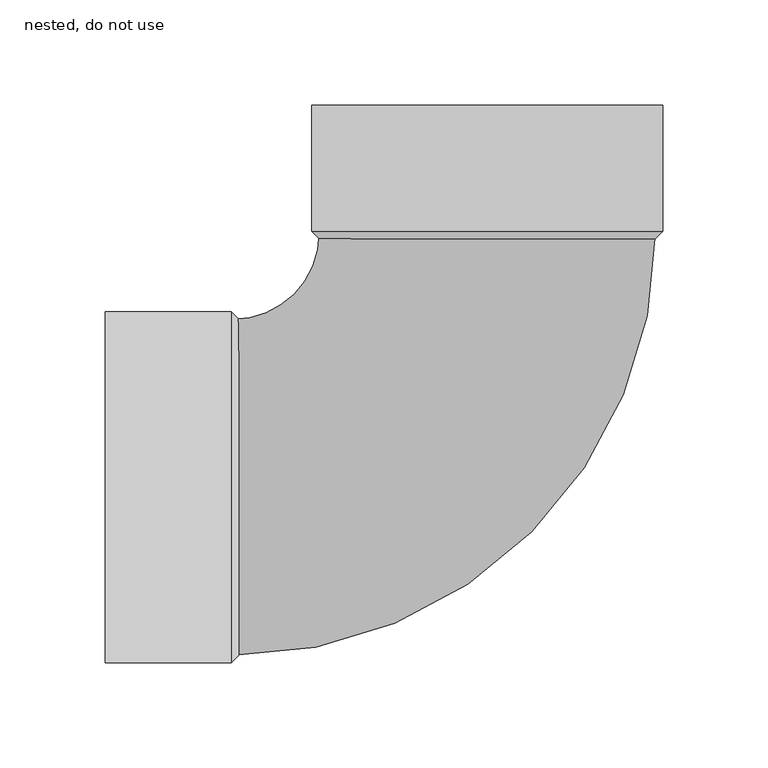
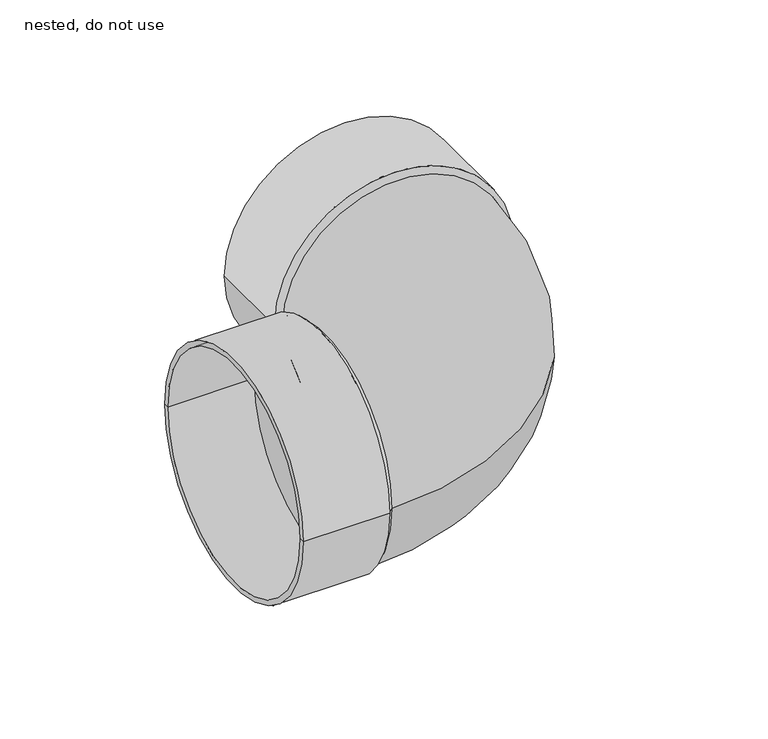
"""IFC4 building model written with IfcOpenShell, lengths in millimetres: pipe fitting geometry, NLRS_52_PIF_UN_Vacurain Flex bocht 2LV_SH_Dyka : nested, do not use."""

from ifc_helpers import new_model, si_unit, point, frame, origin, place, context, project, spatial, polyline, circle_curve, ellipse_curve, trimmed, source, transform, mapped, element, save
from ifc_brep_helpers import plane_surface, cylinder_surface, revolved_surface, advanced_brep


def nested_do_not_use_ecfcf849(model_context):
    return source(origin(), model_context, "Body", "AdvancedBrep", [
        advanced_brep(
        [(-182.0, 83.6, 0.0), (-182.0, -83.6, 0.0), (-182.0, -80.0, 0.0), (-182.0, 80.0, 0.0), (-122.0, 83.6, 0.0), (-122.0, -83.6, 0.0), (-118.4, 80.0, 0.0), (-118.4, -80.0, 0.0)],
        [
            (0, 1, circle_curve(frame((-182.0, 0.0, 0.0), z_axis=(-1.0, 0.0, 0.0), x_axis=(0.0, -1.0000000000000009, 0.0)), 83.6)),
            (1, 2),
            (2, 3, circle_curve(frame((-182.0, 0.0, 0.0), z_axis=(1.0, 0.0, 0.0), x_axis=(0.0, -1.0000000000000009, 0.0)), 80.0)),
            (3, 0),
            (1, 0, circle_curve(frame((-182.0, 0.0, 0.0), z_axis=(-1.0, 0.0, 0.0), x_axis=(0.0, -1.0000000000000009, 0.0)), 83.6)),
            (3, 2, circle_curve(frame((-182.0, 0.0, 0.0), z_axis=(1.0, 0.0, 0.0), x_axis=(0.0, -1.0000000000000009, 0.0)), 80.0)),
            (4, 5, circle_curve(frame((-122.0, 0.0, 0.0), z_axis=(-1.0, 0.0, 0.0), x_axis=(0.0, -1.0000000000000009, 0.0)), 83.6)),
            (5, 1),
            (0, 4),
            (5, 4, circle_curve(frame((-122.0, 0.0, 0.0), z_axis=(-1.0, 0.0, 0.0), x_axis=(0.0, -1.0000000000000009, 0.0)), 83.6)),
            (6, 7, circle_curve(frame((-118.4, 0.0, 0.0), z_axis=(-1.0, 0.0, 0.0), x_axis=(0.0, -1.0000000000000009, 0.0)), 80.0)),
            (7, 5),
            (4, 6),
            (7, 6, circle_curve(frame((-118.4, 0.0, 0.0), z_axis=(-1.0, 0.0, 0.0), x_axis=(0.0, -1.0000000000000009, 0.0)), 80.0)),
            (2, 7),
            (6, 3),
        ],
        [
            plane_surface(frame((-182.0, 0.0, 0.0), z_axis=(-1.0, 0.0, 0.0), x_axis=(0.0, -1.0, 0.0))),
            cylinder_surface(frame((-122.0, 0.0, 0.0), z_axis=(1.0000000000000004, 0.0, 0.0), x_axis=(0.0, -1.0000000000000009, 0.0)), 83.6),
            revolved_surface(polyline([(-122.0, -83.6, 0.0), (-118.4, -80.0, 0.0)]), (-122.0, 0.0, 0.0), (1.0000000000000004, 0.0, 0.0)),
            revolved_surface(polyline([(-118.4, -80.00000000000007, 0.0), (-182.00000000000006, -80.00000000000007, 0.0)]), (-122.0, 0.0, 0.0), (1.0000000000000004, 0.0, 0.0)),
        ],
        [
            (0, [[1, 2, 3, 4]]),
            (0, [[5, -4, 6, -2]]),
            (1, [[7, 8, -1, 9]]),
            (1, [[10, -9, -5, -8]]),
            (2, [[11, 12, -7, 13]]),
            (2, [[14, -13, -10, -12]]),
            (3, [[-3, 15, -11, 16]]),
            (3, [[-6, -16, -14, -15]]),
        ],
    ),
        advanced_brep(
        [(83.6, 182.0, 0.0), (-83.6, 182.0, 0.0), (-80.0, 182.0, 0.0), (80.0, 182.0, 0.0), (83.6, 122.0, 0.0), (-83.6, 122.0, 0.0), (80.0, 118.4, 0.0), (-80.0, 118.4, 0.0)],
        [
            (0, 1, circle_curve(frame((0.0, 182.0, 0.0), z_axis=(0.0, 1.0, 0.0), x_axis=(-1.0000000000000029, 0.0, 0.0)), 83.6)),
            (1, 2),
            (2, 3, circle_curve(frame((0.0, 182.0, 0.0), z_axis=(0.0, -1.0, 0.0), x_axis=(-1.0000000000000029, 0.0, 0.0)), 80.0)),
            (3, 0),
            (1, 0, circle_curve(frame((0.0, 182.0, 0.0), z_axis=(0.0, 1.0, 0.0), x_axis=(-1.0000000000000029, 0.0, 0.0)), 83.6)),
            (3, 2, circle_curve(frame((0.0, 182.0, 0.0), z_axis=(0.0, -1.0, 0.0), x_axis=(-1.0000000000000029, 0.0, 0.0)), 80.0)),
            (4, 5, circle_curve(frame((0.0, 122.0, 0.0), z_axis=(0.0, 1.0, 0.0), x_axis=(-1.0000000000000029, 0.0, 0.0)), 83.6)),
            (5, 1),
            (0, 4),
            (5, 4, circle_curve(frame((0.0, 122.0, 0.0), z_axis=(0.0, 1.0, 0.0), x_axis=(-1.0000000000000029, 0.0, 0.0)), 83.6)),
            (6, 7, circle_curve(frame((0.0, 118.4, 0.0), z_axis=(0.0, 1.0, 0.0), x_axis=(-1.0000000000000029, 0.0, 0.0)), 80.0)),
            (7, 5),
            (4, 6),
            (7, 6, circle_curve(frame((0.0, 118.4, 0.0), z_axis=(0.0, 1.0, 0.0), x_axis=(-1.0000000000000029, 0.0, 0.0)), 80.0)),
            (2, 7),
            (6, 3),
        ],
        [
            plane_surface(frame((0.0, 182.0, 0.0), z_axis=(0.0, 1.0, 0.0), x_axis=(-1.0, 0.0, 0.0))),
            cylinder_surface(frame((0.0, 122.0, 0.0), z_axis=(0.0, -1.0000000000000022, 0.0), x_axis=(-1.0000000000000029, 0.0, 0.0)), 83.6),
            revolved_surface(polyline([(-83.6, 122.0, 0.0), (-80.0, 118.4, 0.0)]), (0.0, 122.0, 0.0), (0.0, -1.0000000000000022, 0.0)),
            revolved_surface(polyline([(-80.00000000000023, 118.39999999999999, 0.0), (-80.00000000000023, 182.00000000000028, 0.0)]), (0.0, 122.0, 0.0), (0.0, -1.0000000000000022, 0.0)),
        ],
        [
            (0, [[1, 2, 3, 4]]),
            (0, [[5, -4, 6, -2]]),
            (1, [[7, 8, -1, 9]]),
            (1, [[10, -9, -5, -8]]),
            (2, [[11, 12, -7, 13]]),
            (2, [[14, -13, -10, -12]]),
            (3, [[-3, 15, -11, 16]]),
            (3, [[-6, -16, -14, -15]]),
        ],
    ),
        advanced_brep(
        [(-122.0, -80.0, 0.0), (-122.0, 80.0, 0.0), (-121.0, -80.0, 0.0), (-121.0, 80.0, 0.0), (-80.0, 121.0, 0.0), (80.0, 121.0, 0.0), (80.0, 122.0, 0.0), (-80.0, 122.0, 0.0)],
        [
            (0, 1, circle_curve(frame((-122.0, 0.0, 0.0), z_axis=(-1.0, 0.0, 0.0), x_axis=(0.0, 1.0, 0.0)), 80.0)),
            (1, 0, circle_curve(frame((-122.0, 0.0, 0.0), z_axis=(-1.0, 0.0, 0.0), x_axis=(0.0, 1.0, 0.0)), 80.0)),
            (0, 2),
            (2, 3, circle_curve(frame((-121.0, 0.0, 0.0), z_axis=(-1.0, 0.0, 0.0), x_axis=(0.0, 1.0, 0.0)), 80.0)),
            (3, 1),
            (3, 2, circle_curve(frame((-121.0, 0.0, 0.0), z_axis=(-1.0, 0.0, 0.0), x_axis=(0.0, 1.0, 0.0)), 80.0)),
            (4, 3, circle_curve(frame((-121.0, 121.0, 0.0), z_axis=(0.0, 0.0, -1.0), x_axis=(0.0, -1.0, 0.0)), 41.0)),
            (2, 5, circle_curve(frame((-121.0, 121.0, 0.0), z_axis=(0.0, 0.0, 1.0), x_axis=(0.0, -1.0, 0.0)), 201.0)),
            (5, 4, circle_curve(frame((0.0, 121.0, 0.0), z_axis=(0.0, -1.0, 0.0), x_axis=(-1.0, 0.0, 0.0)), 80.0)),
            (4, 5, circle_curve(frame((0.0, 121.0, 0.0), z_axis=(0.0, -1.0, 0.0), x_axis=(-1.0, 0.0, 0.0)), 80.0)),
            (6, 7, circle_curve(frame((0.0, 122.0, 0.0), z_axis=(0.0, 1.0, 0.0), x_axis=(-1.0, 0.0, 0.0)), 80.0)),
            (7, 6, circle_curve(frame((0.0, 122.0, 0.0), z_axis=(0.0, 1.0, 0.0), x_axis=(-1.0, 0.0, 0.0)), 80.0)),
            (5, 6),
            (7, 4),
        ],
        [
            plane_surface(frame((-122.0, 0.0, 0.0), z_axis=(-1.0, 0.0, 0.0), x_axis=(0.0, 0.0, 1.0))),
            cylinder_surface(frame((-122.0, 0.0, 0.0), z_axis=(-1.0, 0.0, 0.0), x_axis=(0.0, 1.0, 0.0)), 80.0),
            revolved_surface(trimmed(ellipse_curve(frame((-121.0, 0.0, 0.0), z_axis=(-1.0, 0.0, 0.0), x_axis=(0.0, 1.0, 0.0)), 80.0, 80.0), [point((-121.0, -80.0, 0.0))], [point((-121.0, 80.0, 0.0))], True, "CARTESIAN"), (-121.0, 121.0, 0.0), (0.0, 0.0, 1.0)),
            revolved_surface(trimmed(ellipse_curve(frame((-121.0, 0.0, 0.0), z_axis=(-1.0, 0.0, 0.0), x_axis=(0.0, 1.0, 0.0)), 80.0, 80.0), [point((-121.0, 80.0, 0.0))], [point((-121.0, -80.0, 0.0))], True, "CARTESIAN"), (-121.0, 121.0, 0.0), (0.0, 0.0, 1.0)),
            plane_surface(frame((0.0, 122.0, 0.0), z_axis=(0.0, 1.0, 0.0), x_axis=(0.0, 0.0, 1.0))),
            cylinder_surface(frame((0.0, 121.0, 0.0), z_axis=(0.0, -1.0, 0.0), x_axis=(-1.0, 0.0, 0.0)), 80.0),
        ],
        [
            (0, [[1, 2]]),
            (1, [[-1, 3, 4, 5]]),
            (1, [[-2, -5, 6, -3]]),
            (2, [[7, -4, 8, 9]]),
            (3, [[-8, -6, -7, 10]]),
            (4, [[11, 12]]),
            (5, [[-9, 13, -12, 14]]),
            (5, [[-10, -14, -11, -13]]),
        ],
    ),
    ])


if __name__ == "__main__":
    model = new_model("IFC4")
    model_context = context("Model", 3, world=origin())
    ifc_project = project(units=[si_unit("LENGTHUNIT", "METRE", prefix="MILLI")], contexts=[model_context])
    site = spatial("IfcSite", under=ifc_project)
    building = spatial("IfcBuilding", under=site)
    placement = place(None, origin())
    nested_do_not_use_shape = nested_do_not_use_ecfcf849(model_context)
    element("IfcPipeFitting", 1, ObjectType="NLRS_52_PIF_UN_Vacurain Flex bocht 2LV_SH_Dyka : nested, do not use", at=placement, inside=building, context=model_context, shape_type="MappedRepresentation", body=[
        mapped(nested_do_not_use_shape, transform((0.0, 0.0, 0.0), x_axis=(1.0, 0.0, 0.0), y_axis=(0.0, 1.0, 0.0), z_axis=(0.0, 0.0, 1.0))),
    ])
    save(model, "model.ifc")
